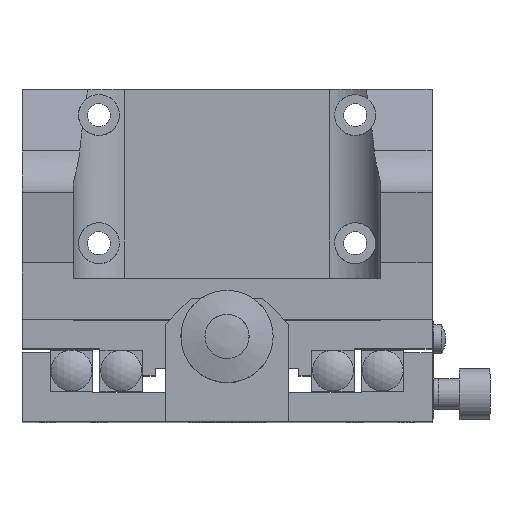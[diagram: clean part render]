
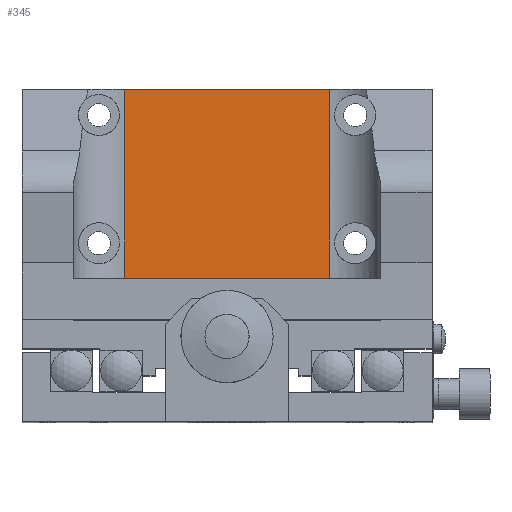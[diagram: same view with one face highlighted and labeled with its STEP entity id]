
A CAD part, top view. The second image highlights one B-rep face of the part: STEP entity #345.
In plain terms, the highlighted planar face has unit normal (0, 0, 1).
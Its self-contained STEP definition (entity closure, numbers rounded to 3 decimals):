
#345 = ADVANCED_FACE( '', ( #841 ), #842, .F. );
#841 = FACE_OUTER_BOUND( '', #1534, .T. );
#842 = PLANE( '', #1535 );
#1534 = EDGE_LOOP( '', ( #2444, #2445, #2446, #2447 ) );
#1535 = AXIS2_PLACEMENT_3D( '', #2448, #2449, #2450 );
#2444 = ORIENTED_EDGE( '', *, *, #3867, .F. );
#2445 = ORIENTED_EDGE( '', *, *, #3868, .T. );
#2446 = ORIENTED_EDGE( '', *, *, #3869, .T. );
#2447 = ORIENTED_EDGE( '', *, *, #3870, .F. );
#2448 = CARTESIAN_POINT( '', ( 20., 37., 8. ) );
#2449 = DIRECTION( '', ( 0., 0., -1. ) );
#2450 = DIRECTION( '', ( -1., 0., 0. ) );
#3867 = EDGE_CURVE( '', #4658, #4659, #4660, .T. );
#3868 = EDGE_CURVE( '', #4658, #4661, #4662, .F. );
#3869 = EDGE_CURVE( '', #4661, #4663, #4664, .T. );
#3870 = EDGE_CURVE( '', #4659, #4663, #4665, .F. );
#4658 = VERTEX_POINT( '', #5802 );
#4659 = VERTEX_POINT( '', #5803 );
#4660 = LINE( '', #5804, #5805 );
#4661 = VERTEX_POINT( '', #5806 );
#4662 = LINE( '', #5807, #5808 );
#4663 = VERTEX_POINT( '', #5809 );
#4664 = LINE( '', #5810, #5811 );
#4665 = LINE( '', #5812, #5813 );
#5802 = CARTESIAN_POINT( '', ( 20., -37., 8. ) );
#5803 = CARTESIAN_POINT( '', ( 20., 0., 8. ) );
#5804 = CARTESIAN_POINT( '', ( 20., 37., 8. ) );
#5805 = VECTOR( '', #6984, 1000. );
#5806 = CARTESIAN_POINT( '', ( 60., -37., 8. ) );
#5807 = CARTESIAN_POINT( '', ( 20., -37., 8. ) );
#5808 = VECTOR( '', #6985, 1000. );
#5809 = CARTESIAN_POINT( '', ( 60., 0., 8. ) );
#5810 = CARTESIAN_POINT( '', ( 60., 37., 8. ) );
#5811 = VECTOR( '', #6986, 1000. );
#5812 = CARTESIAN_POINT( '', ( 40., 0., 8. ) );
#5813 = VECTOR( '', #6987, 1000. );
#6984 = DIRECTION( '', ( 0., 1., 0. ) );
#6985 = DIRECTION( '', ( -1., 0., 0. ) );
#6986 = DIRECTION( '', ( 0., 1., 0. ) );
#6987 = DIRECTION( '', ( -1., 0., 0. ) );
